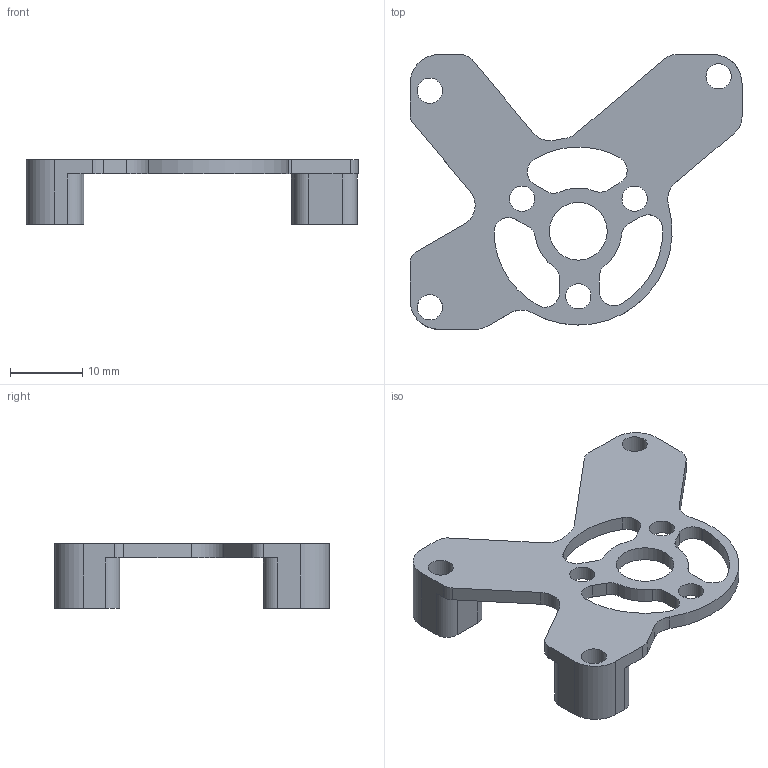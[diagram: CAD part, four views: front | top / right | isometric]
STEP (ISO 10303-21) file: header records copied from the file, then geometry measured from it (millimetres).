
FILE_DESCRIPTION(/* description */ (''),/* implementation_level */ '2;1');
FILE_NAME(/* name */ 'C:/Users/Szasd/Pictures/Saved Pictures/电机支架.step',/* time_stamp */ '2022-03-13T22:03:10+08:00',/* author */ (''),/* organization */ (''),/* preprocessor_version */ 'ST-DEVELOPER v18.1',/* originating_system */ 'Autodesk Translation Framework v10.13.0.1454',/* authorisation */ '');
FILE_SCHEMA (('AUTOMOTIVE_DESIGN { 1 0 10303 214 3 1 1 }'));
Length unit declared in the file: millimetre
Products named in the file (1): 电机支架
Bounding box: 46 x 38.05 x 9 mm (x, y, z)
Volume: 2653 mm3; surface area: 3214.6 mm2
Topology: 1 solids, 1 shells, 79 faces, 231 edges, 154 vertices
Faces by surface type: cylinder 50, plane 29
Full cylindrical faces by diameter (mm): 3.5 x6, 8 x1
Entity records: 2739 total; most frequent: DIRECTION 492, CARTESIAN_POINT 465, ORIENTED_EDGE 462, EDGE_CURVE 231, AXIS2_PLACEMENT_3D 181, VERTEX_POINT 154, LINE 130, VECTOR 130
